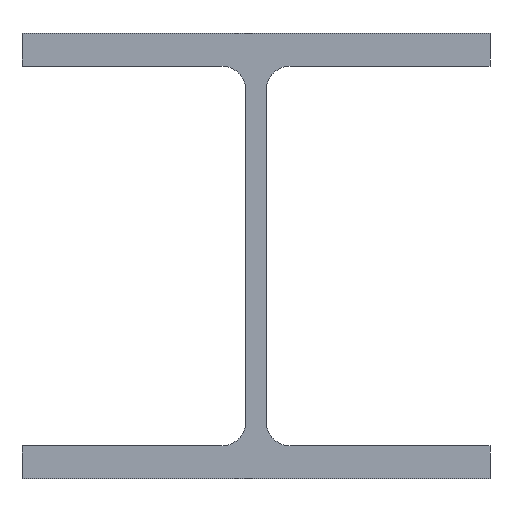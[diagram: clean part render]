
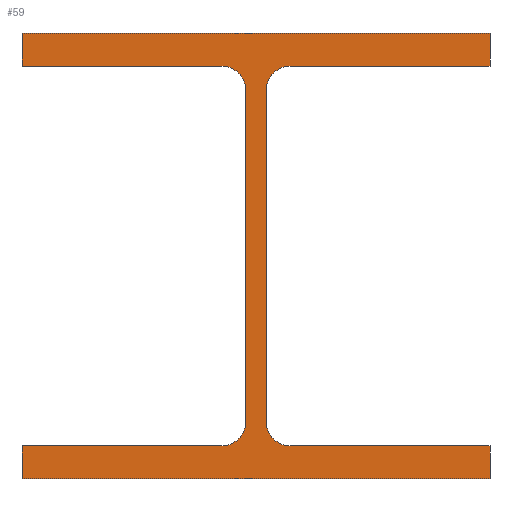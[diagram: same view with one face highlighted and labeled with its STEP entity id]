
A CAD part, front view. The second image highlights one B-rep face of the part: STEP entity #59.
In plain terms, the highlighted planar face has unit normal (0, -1, 0).
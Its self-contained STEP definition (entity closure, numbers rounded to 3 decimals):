
#59=ADVANCED_FACE('',(#77),#209,.T.);
#77=FACE_OUTER_BOUND('',#95,.F.);
#95=EDGE_LOOP('',(#128,#129,#130,#131,#132,#133,#134,#135,#136,#137,#138,
#139,#140,#141,#142,#143));
#128=ORIENTED_EDGE('',*,*,#246,.F.);
#129=ORIENTED_EDGE('',*,*,#247,.F.);
#130=ORIENTED_EDGE('',*,*,#248,.F.);
#131=ORIENTED_EDGE('',*,*,#249,.T.);
#132=ORIENTED_EDGE('',*,*,#250,.F.);
#133=ORIENTED_EDGE('',*,*,#251,.T.);
#134=ORIENTED_EDGE('',*,*,#252,.F.);
#135=ORIENTED_EDGE('',*,*,#253,.F.);
#136=ORIENTED_EDGE('',*,*,#254,.F.);
#137=ORIENTED_EDGE('',*,*,#255,.F.);
#138=ORIENTED_EDGE('',*,*,#256,.F.);
#139=ORIENTED_EDGE('',*,*,#257,.T.);
#140=ORIENTED_EDGE('',*,*,#258,.F.);
#141=ORIENTED_EDGE('',*,*,#259,.T.);
#142=ORIENTED_EDGE('',*,*,#260,.F.);
#143=ORIENTED_EDGE('',*,*,#261,.F.);
#209=PLANE('',#401);
#226=CIRCLE('',#396,20.);
#227=CIRCLE('',#397,20.);
#228=CIRCLE('',#398,20.);
#229=CIRCLE('',#399,20.);
#246=EDGE_CURVE('',#373,#372,#290,.T.);
#247=EDGE_CURVE('',#371,#373,#291,.T.);
#248=EDGE_CURVE('',#370,#371,#292,.T.);
#249=EDGE_CURVE('',#370,#369,#226,.T.);
#250=EDGE_CURVE('',#368,#369,#293,.T.);
#251=EDGE_CURVE('',#368,#367,#227,.T.);
#252=EDGE_CURVE('',#366,#367,#294,.T.);
#253=EDGE_CURVE('',#365,#366,#295,.T.);
#254=EDGE_CURVE('',#364,#365,#296,.T.);
#255=EDGE_CURVE('',#363,#364,#297,.T.);
#256=EDGE_CURVE('',#362,#363,#298,.T.);
#257=EDGE_CURVE('',#362,#361,#228,.T.);
#258=EDGE_CURVE('',#360,#361,#299,.T.);
#259=EDGE_CURVE('',#360,#359,#229,.T.);
#260=EDGE_CURVE('',#358,#359,#300,.T.);
#261=EDGE_CURVE('',#372,#358,#301,.T.);
#290=LINE('',#564,#330);
#291=LINE('',#565,#331);
#292=LINE('',#566,#332);
#293=LINE('',#568,#333);
#294=LINE('',#570,#334);
#295=LINE('',#571,#335);
#296=LINE('',#572,#336);
#297=LINE('',#573,#337);
#298=LINE('',#574,#338);
#299=LINE('',#576,#339);
#300=LINE('',#578,#340);
#301=LINE('',#579,#341);
#330=VECTOR('',#441,394.);
#331=VECTOR('',#442,27.7);
#332=VECTOR('',#443,168.35);
#333=VECTOR('',#446,279.6);
#334=VECTOR('',#449,168.35);
#335=VECTOR('',#450,27.7);
#336=VECTOR('',#451,394.);
#337=VECTOR('',#452,27.7);
#338=VECTOR('',#453,168.35);
#339=VECTOR('',#456,279.6);
#340=VECTOR('',#459,168.35);
#341=VECTOR('',#460,27.7);
#358=VERTEX_POINT('',#516);
#359=VERTEX_POINT('',#517);
#360=VERTEX_POINT('',#518);
#361=VERTEX_POINT('',#519);
#362=VERTEX_POINT('',#520);
#363=VERTEX_POINT('',#521);
#364=VERTEX_POINT('',#522);
#365=VERTEX_POINT('',#523);
#366=VERTEX_POINT('',#524);
#367=VERTEX_POINT('',#525);
#368=VERTEX_POINT('',#526);
#369=VERTEX_POINT('',#527);
#370=VERTEX_POINT('',#528);
#371=VERTEX_POINT('',#529);
#372=VERTEX_POINT('',#530);
#373=VERTEX_POINT('',#531);
#396=AXIS2_PLACEMENT_3D('',#567,#444,#445);
#397=AXIS2_PLACEMENT_3D('',#569,#447,#448);
#398=AXIS2_PLACEMENT_3D('',#575,#454,#455);
#399=AXIS2_PLACEMENT_3D('',#577,#457,#458);
#401=AXIS2_PLACEMENT_3D('',#597,#479,#480);
#441=DIRECTION('',(1.,0.,0.));
#442=DIRECTION('',(0.,0.,-1.));
#443=DIRECTION('',(-1.,0.,0.));
#444=DIRECTION('',(0.,-1.,0.));
#445=DIRECTION('',(0.,0.,-1.));
#446=DIRECTION('',(0.,0.,-1.));
#447=DIRECTION('',(0.,-1.,0.));
#448=DIRECTION('',(1.,0.,0.));
#449=DIRECTION('',(1.,0.,0.));
#450=DIRECTION('',(0.,0.,-1.));
#451=DIRECTION('',(-1.,0.,0.));
#452=DIRECTION('',(0.,0.,1.));
#453=DIRECTION('',(1.,0.,0.));
#454=DIRECTION('',(0.,-1.,0.));
#455=DIRECTION('',(0.,0.,1.));
#456=DIRECTION('',(0.,0.,1.));
#457=DIRECTION('',(0.,-1.,0.));
#458=DIRECTION('',(-1.,0.,0.));
#459=DIRECTION('',(-1.,0.,0.));
#460=DIRECTION('',(0.,0.,1.));
#479=DIRECTION('',(0.,-1.,0.));
#480=DIRECTION('',(-1.,0.,0.));
#516=CARTESIAN_POINT('',(197.,0.,-347.3));
#517=CARTESIAN_POINT('',(28.65,0.,-347.3));
#518=CARTESIAN_POINT('',(8.65,0.,-327.3));
#519=CARTESIAN_POINT('',(8.65,0.,-47.7));
#520=CARTESIAN_POINT('',(28.65,0.,-27.7));
#521=CARTESIAN_POINT('',(197.,0.,-27.7));
#522=CARTESIAN_POINT('',(197.,0.,0.));
#523=CARTESIAN_POINT('',(-197.,0.,0.));
#524=CARTESIAN_POINT('',(-197.,0.,-27.7));
#525=CARTESIAN_POINT('',(-28.65,0.,-27.7));
#526=CARTESIAN_POINT('',(-8.65,0.,-47.7));
#527=CARTESIAN_POINT('',(-8.65,0.,-327.3));
#528=CARTESIAN_POINT('',(-28.65,0.,-347.3));
#529=CARTESIAN_POINT('',(-197.,0.,-347.3));
#530=CARTESIAN_POINT('',(197.,0.,-375.));
#531=CARTESIAN_POINT('',(-197.,0.,-375.));
#564=CARTESIAN_POINT('',(-197.,0.,-375.));
#565=CARTESIAN_POINT('',(-197.,0.,-347.3));
#566=CARTESIAN_POINT('',(-28.65,0.,-347.3));
#567=CARTESIAN_POINT('',(-28.65,0.,-327.3));
#568=CARTESIAN_POINT('',(-8.65,0.,-47.7));
#569=CARTESIAN_POINT('',(-28.65,0.,-47.7));
#570=CARTESIAN_POINT('',(-197.,0.,-27.7));
#571=CARTESIAN_POINT('',(-197.,0.,0.));
#572=CARTESIAN_POINT('',(197.,0.,0.));
#573=CARTESIAN_POINT('',(197.,0.,-27.7));
#574=CARTESIAN_POINT('',(28.65,0.,-27.7));
#575=CARTESIAN_POINT('',(28.65,0.,-47.7));
#576=CARTESIAN_POINT('',(8.65,0.,-327.3));
#577=CARTESIAN_POINT('',(28.65,0.,-327.3));
#578=CARTESIAN_POINT('',(197.,0.,-347.3));
#579=CARTESIAN_POINT('',(197.,0.,-375.));
#597=CARTESIAN_POINT('',(200.94,0.,3.94));
